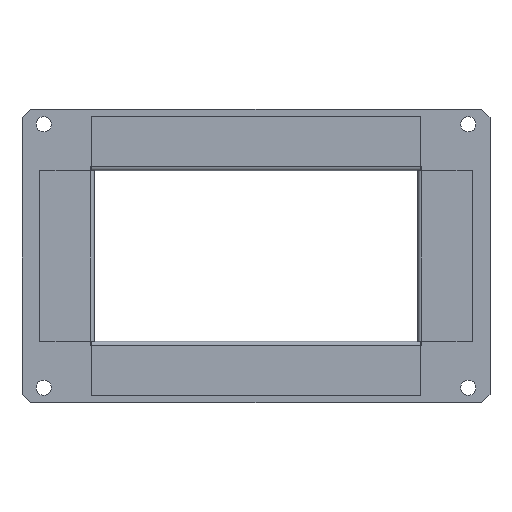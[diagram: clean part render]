
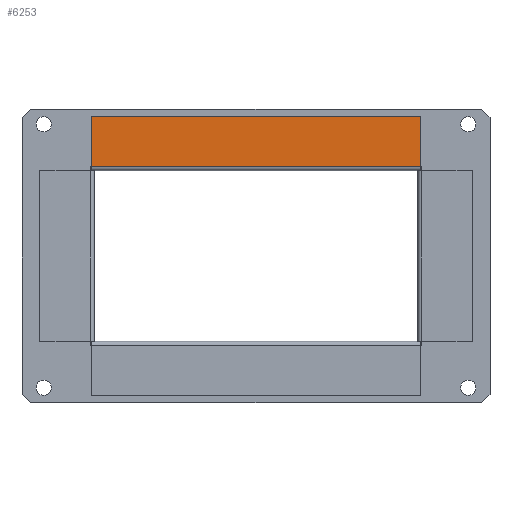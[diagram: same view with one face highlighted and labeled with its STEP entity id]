
A CAD part, top view. The second image highlights one B-rep face of the part: STEP entity #6253.
In plain terms, the highlighted planar face has unit normal (0, 0, 1) as drawn and (0, 0, -1) by its records, which use the part's own axes.
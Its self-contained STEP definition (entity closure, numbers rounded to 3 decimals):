
#70 = ORIENTED_EDGE ( 'NONE', *, *, #4451, .F. ) ;
#609 = DIRECTION ( 'NONE',  ( 0., -1., 0. ) ) ;
#647 = ORIENTED_EDGE ( 'NONE', *, *, #2748, .F. ) ;
#650 = AXIS2_PLACEMENT_3D ( 'NONE', #1755, #2246, #5705 ) ;
#816 = DIRECTION ( 'NONE',  ( -1., 0., 0. ) ) ;
#875 = CARTESIAN_POINT ( 'NONE',  ( -75.8, 1.8, 0. ) ) ;
#931 = FACE_OUTER_BOUND ( 'NONE', #4974, .T. ) ;
#1492 = CARTESIAN_POINT ( 'NONE',  ( -75.8, 25., 0. ) ) ;
#1550 = DIRECTION ( 'NONE',  ( 0., -1., 0. ) ) ;
#1755 = CARTESIAN_POINT ( 'NONE',  ( 75.8, 0., 0. ) ) ;
#1757 = CARTESIAN_POINT ( 'NONE',  ( 75.8, 25., 0. ) ) ;
#1779 = VECTOR ( 'NONE', #816, 1000. ) ;
#1840 = VECTOR ( 'NONE', #609, 1000. ) ;
#2072 = CARTESIAN_POINT ( 'NONE',  ( 75.8, 0., 0. ) ) ;
#2246 = DIRECTION ( 'NONE',  ( 0., 0., -1. ) ) ;
#2411 = VECTOR ( 'NONE', #1550, 1000. ) ;
#2620 = VERTEX_POINT ( 'NONE', #1492 ) ;
#2748 = EDGE_CURVE ( 'NONE', #2620, #3177, #5191, .T. ) ;
#3082 = VERTEX_POINT ( 'NONE', #5222 ) ;
#3177 = VERTEX_POINT ( 'NONE', #875 ) ;
#3227 = EDGE_CURVE ( 'NONE', #5281, #3177, #6209, .T. ) ;
#3277 = ORIENTED_EDGE ( 'NONE', *, *, #3227, .T. ) ;
#3342 = CARTESIAN_POINT ( 'NONE',  ( 75.8, 1.8, 0. ) ) ;
#3560 = VECTOR ( 'NONE', #5835, 1000. ) ;
#3903 = CARTESIAN_POINT ( 'NONE',  ( 75.8, 1.8, 0. ) ) ;
#4402 = LINE ( 'NONE', #1757, #1779 ) ;
#4451 = EDGE_CURVE ( 'NONE', #3082, #2620, #4402, .T. ) ;
#4462 = LINE ( 'NONE', #2072, #1840 ) ;
#4704 = PLANE ( 'NONE',  #650 ) ;
#4974 = EDGE_LOOP ( 'NONE', ( #647, #70, #5060, #3277 ) ) ;
#4991 = CARTESIAN_POINT ( 'NONE',  ( -75.8, 0., 0. ) ) ;
#5060 = ORIENTED_EDGE ( 'NONE', *, *, #5503, .T. ) ;
#5191 = LINE ( 'NONE', #4991, #2411 ) ;
#5222 = CARTESIAN_POINT ( 'NONE',  ( 75.8, 25., 0. ) ) ;
#5281 = VERTEX_POINT ( 'NONE', #3903 ) ;
#5503 = EDGE_CURVE ( 'NONE', #3082, #5281, #4462, .T. ) ;
#5705 = DIRECTION ( 'NONE',  ( -1., 0., 0. ) ) ;
#5835 = DIRECTION ( 'NONE',  ( -1., 0., 0. ) ) ;
#6209 = LINE ( 'NONE', #3342, #3560 ) ;
#6253 = ADVANCED_FACE ( 'NONE', ( #931 ), #4704, .T. ) ;
